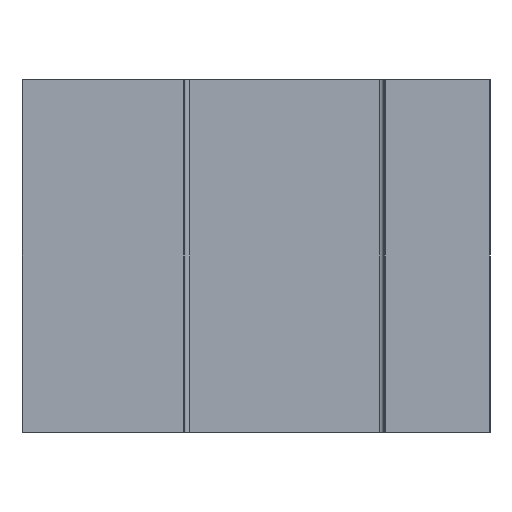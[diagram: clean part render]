
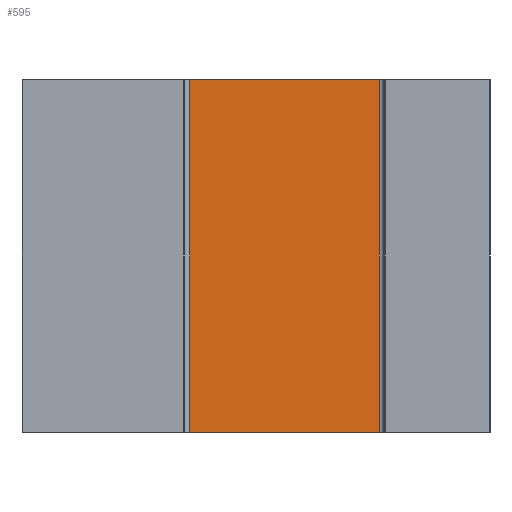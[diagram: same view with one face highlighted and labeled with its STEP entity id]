
A CAD part, front view. The second image highlights one B-rep face of the part: STEP entity #595.
In plain terms, the highlighted planar face has unit normal (0, -1, 0).
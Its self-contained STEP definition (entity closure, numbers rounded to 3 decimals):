
#595 = ADVANCED_FACE( '', ( #1700 ), #1701, .T. );
#597 = EDGE_CURVE( '', #917, #1019, #1703, .T. );
#917 = VERTEX_POINT( '', #2070 );
#1019 = VERTEX_POINT( '', #2181 );
#1027 = VERTEX_POINT( '', #2191 );
#1127 = EDGE_CURVE( '', #1019, #1455, #2302, .T. );
#1199 = EDGE_CURVE( '', #917, #1027, #2386, .T. );
#1455 = VERTEX_POINT( '', #2666 );
#1551 = EDGE_CURVE( '', #1027, #1455, #2774, .T. );
#1700 = FACE_OUTER_BOUND( '', #2940, .T. );
#1701 = PLANE( '', #2941 );
#1703 = LINE( '', #2944, #2945 );
#2070 = CARTESIAN_POINT( '', ( -11., 15.65, 0. ) );
#2181 = CARTESIAN_POINT( '', ( 11., 15.65, 0. ) );
#2191 = CARTESIAN_POINT( '', ( -11., 15.65, -41. ) );
#2302 = LINE( '', #3769, #3770 );
#2386 = LINE( '', #3877, #3878 );
#2666 = CARTESIAN_POINT( '', ( 11., 15.65, -41. ) );
#2774 = LINE( '', #4404, #4405 );
#2940 = EDGE_LOOP( '', ( #4591, #4592, #4593, #4594 ) );
#2941 = AXIS2_PLACEMENT_3D( '', #4595, #4596, #4597 );
#2944 = CARTESIAN_POINT( '', ( -11., 15.65, 0. ) );
#2945 = VECTOR( '', #4598, 1. );
#3769 = CARTESIAN_POINT( '', ( 11., 15.65, 0. ) );
#3770 = VECTOR( '', #5294, 1. );
#3877 = CARTESIAN_POINT( '', ( -11., 15.65, 0. ) );
#3878 = VECTOR( '', #5398, 1. );
#4404 = CARTESIAN_POINT( '', ( -11., 15.65, -41. ) );
#4405 = VECTOR( '', #5825, 1. );
#4591 = ORIENTED_EDGE( '', *, *, #1551, .T. );
#4592 = ORIENTED_EDGE( '', *, *, #1127, .F. );
#4593 = ORIENTED_EDGE( '', *, *, #597, .F. );
#4594 = ORIENTED_EDGE( '', *, *, #1199, .T. );
#4595 = CARTESIAN_POINT( '', ( -11., 15.65, 0. ) );
#4596 = DIRECTION( '', ( 0., -1., 0. ) );
#4597 = DIRECTION( '', ( -1., 0., 0. ) );
#4598 = DIRECTION( '', ( 1., 0., 0. ) );
#5294 = DIRECTION( '', ( 0., 0., -1. ) );
#5398 = DIRECTION( '', ( 0., 0., -1. ) );
#5825 = DIRECTION( '', ( 1., 0., 0. ) );
